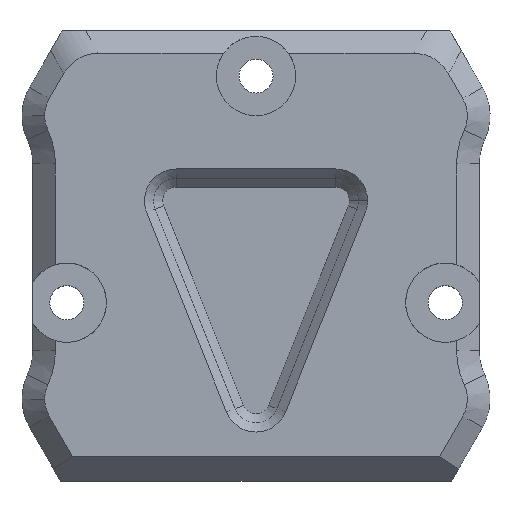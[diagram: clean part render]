
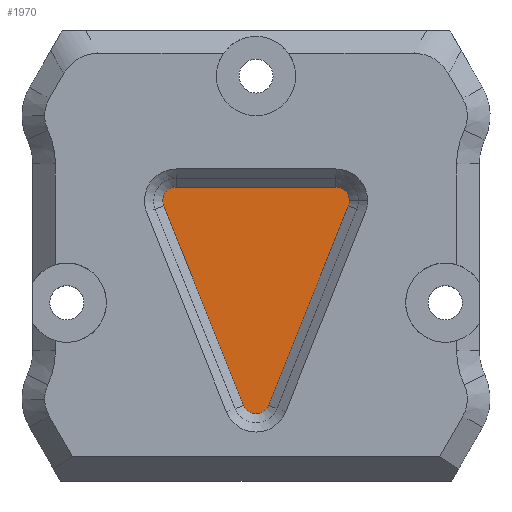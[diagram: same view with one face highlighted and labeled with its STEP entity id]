
A CAD part, top view. The second image highlights one B-rep face of the part: STEP entity #1970.
In plain terms, the highlighted planar face has unit normal (0, 0, 1).
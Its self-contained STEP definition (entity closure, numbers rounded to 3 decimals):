
#17 = CARTESIAN_POINT ( 'NONE',  ( 0., 0., 2. ) ) ;
#36 = EDGE_CURVE ( 'NONE', #1561, #747, #1656, .T. ) ;
#51 = DIRECTION ( 'NONE',  ( -1., 0., 0. ) ) ;
#105 = DIRECTION ( 'NONE',  ( -1., 0., 0. ) ) ;
#117 = CARTESIAN_POINT ( 'NONE',  ( -7.046, 6.2, 2. ) ) ;
#138 = VERTEX_POINT ( 'NONE', #1197 ) ;
#178 = LINE ( 'NONE', #1769, #1435 ) ;
#198 = ORIENTED_EDGE ( 'NONE', *, *, #466, .T. ) ;
#246 = CARTESIAN_POINT ( 'NONE',  ( 7.046, 5., 2. ) ) ;
#312 = CARTESIAN_POINT ( 'NONE',  ( 7.046, 6.2, 2. ) ) ;
#378 = CARTESIAN_POINT ( 'NONE',  ( -7.046, 5., 2. ) ) ;
#402 = AXIS2_PLACEMENT_3D ( 'NONE', #246, #2253, #51 ) ;
#423 = FACE_OUTER_BOUND ( 'NONE', #459, .T. ) ;
#459 = EDGE_LOOP ( 'NONE', ( #2122, #198, #773, #1306, #1511, #734, #2029 ) ) ;
#466 = EDGE_CURVE ( 'NONE', #1808, #1561, #541, .T. ) ;
#519 = CIRCLE ( 'NONE', #402, 1.2 ) ;
#541 = LINE ( 'NONE', #1125, #1923 ) ;
#560 = PLANE ( 'NONE',  #1314 ) ;
#669 = DIRECTION ( 'NONE',  ( 0., 0., 1. ) ) ;
#734 = ORIENTED_EDGE ( 'NONE', *, *, #1001, .T. ) ;
#747 = VERTEX_POINT ( 'NONE', #2327 ) ;
#773 = ORIENTED_EDGE ( 'NONE', *, *, #36, .T. ) ;
#900 = EDGE_CURVE ( 'NONE', #1207, #1808, #1135, .T. ) ;
#907 = DIRECTION ( 'NONE',  ( 0., 0., -1. ) ) ;
#1001 = EDGE_CURVE ( 'NONE', #1122, #1283, #519, .T. ) ;
#1012 = CARTESIAN_POINT ( 'NONE',  ( -7.046, 6.2, 2. ) ) ;
#1037 = VECTOR ( 'NONE', #1750, 1000. ) ;
#1103 = CIRCLE ( 'NONE', #1173, 1.2 ) ;
#1116 = DIRECTION ( 'NONE',  ( -1., 0., 0. ) ) ;
#1122 = VERTEX_POINT ( 'NONE', #2081 ) ;
#1125 = CARTESIAN_POINT ( 'NONE',  ( -1.114, -13.061, 2. ) ) ;
#1131 = CARTESIAN_POINT ( 'NONE',  ( -1.114, -13.061, 2. ) ) ;
#1135 = CIRCLE ( 'NONE', #1671, 1.2 ) ;
#1147 = DIRECTION ( 'NONE',  ( 0., 0., 1. ) ) ;
#1173 = AXIS2_PLACEMENT_3D ( 'NONE', #1250, #669, #1591 ) ;
#1197 = CARTESIAN_POINT ( 'NONE',  ( 8.16, 4.554, 2. ) ) ;
#1207 = VERTEX_POINT ( 'NONE', #117 ) ;
#1250 = CARTESIAN_POINT ( 'NONE',  ( 7.046, 5., 2. ) ) ;
#1254 = DIRECTION ( 'NONE',  ( 0.371, 0.928, 0. ) ) ;
#1256 = EDGE_CURVE ( 'NONE', #138, #1122, #1103, .T. ) ;
#1283 = VERTEX_POINT ( 'NONE', #312 ) ;
#1302 = DIRECTION ( 'NONE',  ( 0.371, -0.928, 0. ) ) ;
#1306 = ORIENTED_EDGE ( 'NONE', *, *, #1914, .T. ) ;
#1314 = AXIS2_PLACEMENT_3D ( 'NONE', #17, #907, #1116 ) ;
#1323 = LINE ( 'NONE', #1012, #1037 ) ;
#1389 = CARTESIAN_POINT ( 'NONE',  ( 0., -12.615, 2. ) ) ;
#1435 = VECTOR ( 'NONE', #1254, 1000. ) ;
#1511 = ORIENTED_EDGE ( 'NONE', *, *, #1256, .T. ) ;
#1561 = VERTEX_POINT ( 'NONE', #1131 ) ;
#1591 = DIRECTION ( 'NONE',  ( -1., 0., 0. ) ) ;
#1615 = AXIS2_PLACEMENT_3D ( 'NONE', #1389, #1894, #105 ) ;
#1656 = CIRCLE ( 'NONE', #1615, 1.2 ) ;
#1671 = AXIS2_PLACEMENT_3D ( 'NONE', #378, #1147, #1675 ) ;
#1675 = DIRECTION ( 'NONE',  ( -1., 0., 0. ) ) ;
#1750 = DIRECTION ( 'NONE',  ( -1., 0., 0. ) ) ;
#1769 = CARTESIAN_POINT ( 'NONE',  ( 8.16, 4.554, 2. ) ) ;
#1807 = EDGE_CURVE ( 'NONE', #1283, #1207, #1323, .T. ) ;
#1808 = VERTEX_POINT ( 'NONE', #2262 ) ;
#1894 = DIRECTION ( 'NONE',  ( 0., 0., 1. ) ) ;
#1914 = EDGE_CURVE ( 'NONE', #747, #138, #178, .T. ) ;
#1923 = VECTOR ( 'NONE', #1302, 1000. ) ;
#1970 = ADVANCED_FACE ( 'NONE', ( #423 ), #560, .F. ) ;
#2029 = ORIENTED_EDGE ( 'NONE', *, *, #1807, .T. ) ;
#2081 = CARTESIAN_POINT ( 'NONE',  ( 8.246, 5., 2. ) ) ;
#2122 = ORIENTED_EDGE ( 'NONE', *, *, #900, .T. ) ;
#2253 = DIRECTION ( 'NONE',  ( 0., 0., 1. ) ) ;
#2262 = CARTESIAN_POINT ( 'NONE',  ( -8.16, 4.554, 2. ) ) ;
#2327 = CARTESIAN_POINT ( 'NONE',  ( 1.114, -13.061, 2. ) ) ;
